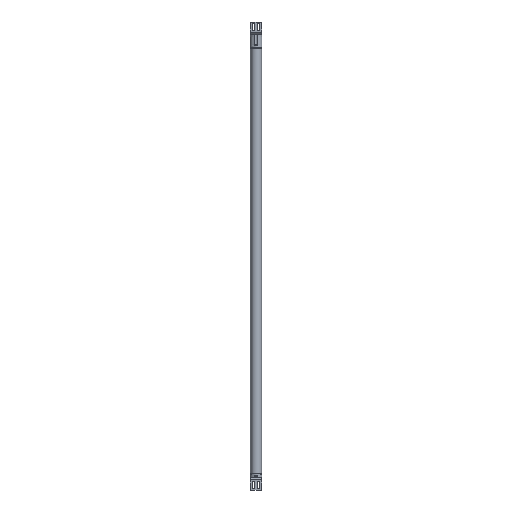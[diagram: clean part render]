
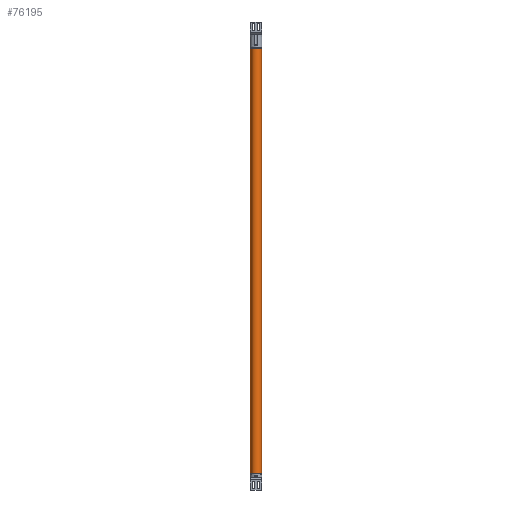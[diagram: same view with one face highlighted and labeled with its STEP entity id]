
A CAD part, front view. The second image highlights one B-rep face of the part: STEP entity #76195.
In plain terms, the highlighted cylindrical face has radius 20 mm (diameter 40 mm), a partial arc.
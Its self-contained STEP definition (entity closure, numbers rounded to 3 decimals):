
#14234=CARTESIAN_POINT('',(0.,0.003,0.));
#14235=DIRECTION('',(0.,0.,1.));
#14236=DIRECTION('',(-0.899,0.437,0.));
#14237=AXIS2_PLACEMENT_3D('',#14234,#14235,#14236);
#20786=DIRECTION('',(0.,0.,1.));
#20787=VECTOR('',#20786,1522.);
#20788=CARTESIAN_POINT('',(17.986,8.75,-1522.));
#20789=LINE('',#20788,#20787);
#20793=CARTESIAN_POINT('',(0.,0.003,-1522.));
#20794=DIRECTION('',(0.,0.,1.));
#20795=DIRECTION('',(-0.899,0.437,0.));
#20796=AXIS2_PLACEMENT_3D('',#20793,#20794,#20795);
#20801=DIRECTION('',(0.,0.,1.));
#20802=VECTOR('',#20801,1522.);
#20803=CARTESIAN_POINT('',(-17.986,8.75,-1522.));
#20804=LINE('',#20803,#20802);
#53498=CARTESIAN_POINT('',(-17.986,8.75,0.));
#53499=VERTEX_POINT('',#53498);
#53500=CARTESIAN_POINT('',(17.986,8.75,0.));
#53501=VERTEX_POINT('',#53500);
#55171=CARTESIAN_POINT('',(-17.986,8.75,-1522.));
#55172=VERTEX_POINT('',#55171);
#55173=CARTESIAN_POINT('',(17.986,8.75,-1522.));
#55174=VERTEX_POINT('',#55173);
#76183=CARTESIAN_POINT('',(0.,0.003,-1522.));
#76184=DIRECTION('',(0.,0.,1.));
#76185=DIRECTION('',(1.,0.,0.));
#76186=AXIS2_PLACEMENT_3D('',#76183,#76184,#76185);
#76187=CYLINDRICAL_SURFACE('',#76186,20.);
#76188=ORIENTED_EDGE('',*,*,#69359,.F.);
#76190=ORIENTED_EDGE('',*,*,#76189,.T.);
#76191=ORIENTED_EDGE('',*,*,#69104,.T.);
#76192=ORIENTED_EDGE('',*,*,#76169,.F.);
#76193=EDGE_LOOP('',(#76188,#76190,#76191,#76192));
#76194=FACE_OUTER_BOUND('',#76193,.F.);
#14238=CIRCLE('',#14237,20.);
#20797=CIRCLE('',#20796,20.);
#69104=EDGE_CURVE('',#53499,#53501,#14238,.T.);
#69359=EDGE_CURVE('',#55172,#55174,#20797,.T.);
#76169=EDGE_CURVE('',#55174,#53501,#20789,.T.);
#76189=EDGE_CURVE('',#55172,#53499,#20804,.T.);
#76195=ADVANCED_FACE('',(#76194),#76187,.T.);
